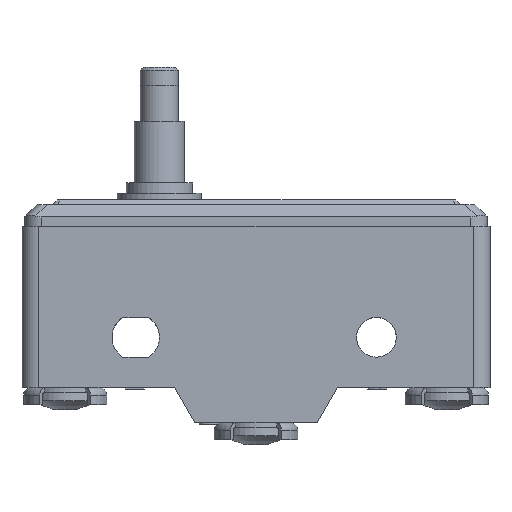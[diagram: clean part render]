
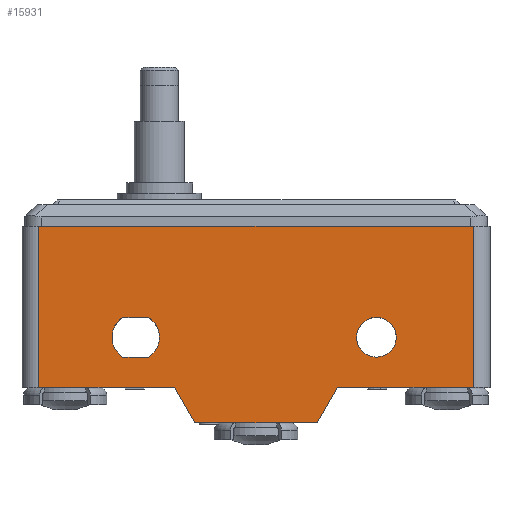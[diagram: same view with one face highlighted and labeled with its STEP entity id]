
A CAD part, top view. The second image highlights one B-rep face of the part: STEP entity #15931.
In plain terms, the highlighted planar face has unit normal (0, 0, 1).
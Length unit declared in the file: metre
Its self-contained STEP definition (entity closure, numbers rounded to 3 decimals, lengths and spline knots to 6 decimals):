
#10977=CARTESIAN_POINT('',(0.006898,-0.005496,0.10765));
#10978=VERTEX_POINT('',#10977);
#10981=CARTESIAN_POINT('',(0.004762,-0.009196,0.10765));
#10982=DIRECTION('',(0.5,0.866,0.));
#10983=VECTOR('',#10982,1.);
#10984=LINE('',#10981,#10983);
#10985=CARTESIAN_POINT('',(0.004762,-0.009196,0.10765));
#10986=VERTEX_POINT('',#10985);
#10987=EDGE_CURVE('',#10986,#10978,#10984,.T.);
#12045=CARTESIAN_POINT('',(-0.008165,-0.009196,0.10765));
#12046=VERTEX_POINT('',#12045);
#12049=CARTESIAN_POINT('',(-0.010302,-0.005496,0.10765));
#12050=DIRECTION('',(0.5,-0.866,0.));
#12051=VECTOR('',#12050,1.);
#12052=LINE('',#12049,#12051);
#12053=CARTESIAN_POINT('',(-0.010302,-0.005496,0.10765));
#12054=VERTEX_POINT('',#12053);
#12055=EDGE_CURVE('',#12054,#12046,#12052,.T.);
#12132=CARTESIAN_POINT('',(-0.024652,0.011504,0.10765));
#12133=VERTEX_POINT('',#12132);
#12142=CARTESIAN_POINT('',(-0.024652,-0.005496,0.10765));
#12143=VERTEX_POINT('',#12142);
#12146=CARTESIAN_POINT('',(-0.024652,-0.000896,0.10765));
#12147=DIRECTION('',(0.,-1.,0.));
#12148=VECTOR('',#12147,1.);
#12149=LINE('',#12146,#12148);
#12150=EDGE_CURVE('',#12133,#12143,#12149,.T.);
#13527=CARTESIAN_POINT('',(-0.026402,-0.005496,0.10765));
#13528=DIRECTION('',(1.,0.,0.));
#13529=VECTOR('',#13528,1.);
#13530=LINE('',#13527,#13529);
#13531=EDGE_CURVE('',#12143,#12054,#13530,.T.);
#13637=CARTESIAN_POINT('',(0.021248,-0.005496,0.10765));
#13638=VERTEX_POINT('',#13637);
#13656=CARTESIAN_POINT('',(0.021248,0.011504,0.10765));
#13657=VERTEX_POINT('',#13656);
#13660=CARTESIAN_POINT('',(0.021248,-0.000896,0.10765));
#13661=DIRECTION('',(0.,1.,0.));
#13662=VECTOR('',#13661,1.);
#13663=LINE('',#13660,#13662);
#13664=EDGE_CURVE('',#13638,#13657,#13663,.T.);
#13774=CARTESIAN_POINT('',(0.022998,0.011504,0.10765));
#13775=DIRECTION('',(-1.,0.,0.));
#13776=VECTOR('',#13775,1.);
#13777=LINE('',#13774,#13776);
#13778=EDGE_CURVE('',#13657,#12133,#13777,.T.);
#15716=CARTESIAN_POINT('',(0.006898,-0.005496,0.10765));
#15717=DIRECTION('',(1.,0.,0.));
#15718=VECTOR('',#15717,1.);
#15719=LINE('',#15716,#15718);
#15720=EDGE_CURVE('',#10978,#13638,#15719,.T.);
#15754=CARTESIAN_POINT('',(-0.015758,0.001904,0.10765));
#15755=VERTEX_POINT('',#15754);
#15758=CARTESIAN_POINT('',(-0.014402,-0.000196,0.10765));
#15759=DIRECTION('',(0.,0.,1.));
#15760=DIRECTION('',(1.,0.,0.));
#15761=AXIS2_PLACEMENT_3D('',#15758,#15759,#15760);
#15762=CIRCLE('',#15761,0.0025);
#15763=CARTESIAN_POINT('',(-0.015758,-0.002296,0.10765));
#15764=VERTEX_POINT('',#15763);
#15765=EDGE_CURVE('',#15755,#15764,#15762,.T.);
#15798=CARTESIAN_POINT('',(-0.013045,-0.002296,0.10765));
#15799=DIRECTION('',(1.,0.,0.));
#15800=VECTOR('',#15799,1.);
#15801=LINE('',#15798,#15800);
#15802=CARTESIAN_POINT('',(-0.013045,-0.002296,0.10765));
#15803=VERTEX_POINT('',#15802);
#15804=EDGE_CURVE('',#15764,#15803,#15801,.T.);
#15828=CARTESIAN_POINT('',(-0.014402,-0.000196,0.10765));
#15829=DIRECTION('',(0.,0.,1.));
#15830=DIRECTION('',(1.,0.,0.));
#15831=AXIS2_PLACEMENT_3D('',#15828,#15829,#15830);
#15832=CIRCLE('',#15831,0.0025);
#15833=CARTESIAN_POINT('',(-0.013045,0.001904,0.10765));
#15834=VERTEX_POINT('',#15833);
#15835=EDGE_CURVE('',#15803,#15834,#15832,.T.);
#15870=CARTESIAN_POINT('',(-0.013045,0.001904,0.10765));
#15871=DIRECTION('',(-1.,0.,0.));
#15872=VECTOR('',#15871,1.);
#15873=LINE('',#15870,#15872);
#15874=EDGE_CURVE('',#15834,#15755,#15873,.T.);
#15894=CARTESIAN_POINT('',(0.011638,-0.000896,0.10765));
#15895=DIRECTION('',(0.,0.,-1.));
#15896=DIRECTION('',(-1.,0.,0.));
#15897=AXIS2_PLACEMENT_3D('',#15894,#15895,#15896);
#15898=PLANE('',#15897);
#15899=ORIENTED_EDGE('',*,*,#15874,.F.);
#15900=ORIENTED_EDGE('',*,*,#15835,.F.);
#15901=ORIENTED_EDGE('',*,*,#15804,.F.);
#15902=ORIENTED_EDGE('',*,*,#15765,.F.);
#15903=EDGE_LOOP('',(#15899,#15900,#15901,#15902));
#15904=FACE_BOUND('',#15903,.T.);
#15905=CARTESIAN_POINT('',(0.010998,-0.000196,0.10765));
#15906=DIRECTION('',(0.,0.,1.));
#15907=DIRECTION('',(1.,0.,0.));
#15908=AXIS2_PLACEMENT_3D('',#15905,#15906,#15907);
#15909=CIRCLE('',#15908,0.0021);
#15910=CARTESIAN_POINT('',(0.008898,-0.000196,0.10765));
#15911=VERTEX_POINT('',#15910);
#15912=EDGE_CURVE('',#15911,#15911,#15909,.T.);
#15913=ORIENTED_EDGE('',*,*,#15912,.F.);
#15914=EDGE_LOOP('',(#15913));
#15915=FACE_BOUND('',#15914,.T.);
#15916=ORIENTED_EDGE('',*,*,#15720,.T.);
#15917=ORIENTED_EDGE('',*,*,#13664,.T.);
#15918=ORIENTED_EDGE('',*,*,#13778,.T.);
#15919=ORIENTED_EDGE('',*,*,#12150,.T.);
#15920=ORIENTED_EDGE('',*,*,#13531,.T.);
#15921=ORIENTED_EDGE('',*,*,#12055,.T.);
#15922=CARTESIAN_POINT('',(-0.008165,-0.009196,0.10765));
#15923=DIRECTION('',(1.,0.,0.));
#15924=VECTOR('',#15923,1.);
#15925=LINE('',#15922,#15924);
#15926=EDGE_CURVE('',#12046,#10986,#15925,.T.);
#15927=ORIENTED_EDGE('',*,*,#15926,.T.);
#15928=ORIENTED_EDGE('',*,*,#10987,.T.);
#15929=EDGE_LOOP('',(#15916,#15917,#15918,#15919,#15920,#15921,#15927,#15928));
#15930=FACE_BOUND('',#15929,.T.);
#15931=ADVANCED_FACE('',(#15904,#15915,#15930),#15898,.F.);
